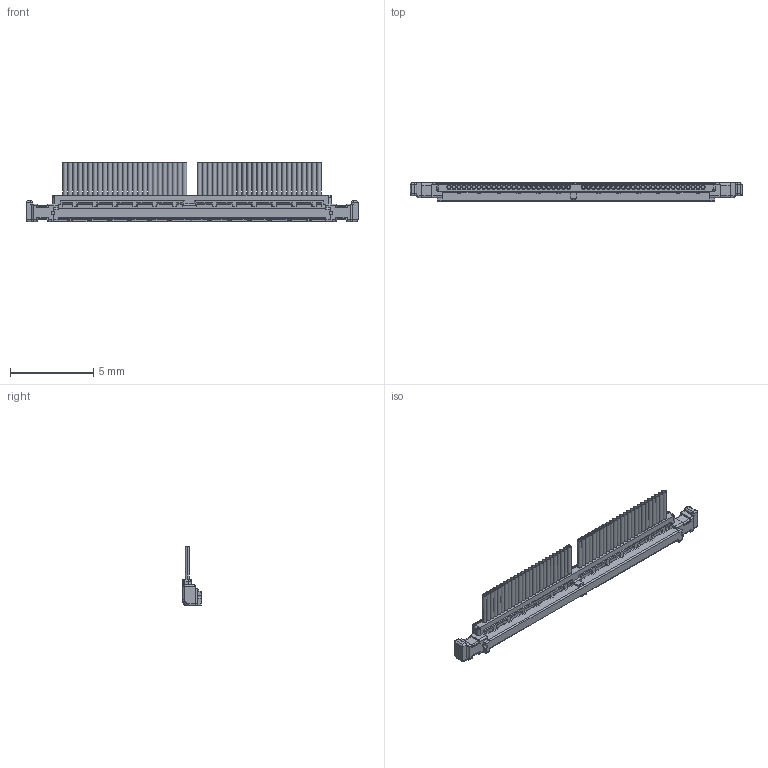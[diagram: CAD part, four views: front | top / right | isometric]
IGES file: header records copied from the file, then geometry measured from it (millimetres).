
Start section: SolidWorks IGES file using analytic representation for surfaces
Global section: file name: C:\3dwork\yoshisuji\CABLINE-UAII\watanabe\VF登録-yoshisuji\IGES\50P\20496-050xxxC PLUG CABLE ASS'Y IGES R1 ALL.IGS,1; native system: 5HSolidWorks 2011; preprocessor: SolidWorks 2011; author: 3DCAD; date: 120529.215837; units: millimetre
Bounding box: 20 x 1.14 x 3.57 mm (x, y, z)
Surface area: 289.7 mm2 (no closed solid volume)
Topology: 0 solids, 0 shells, 1601 faces, 11798 edges, 11790 vertices
Faces by surface type: bspline 1202, revolution 399
